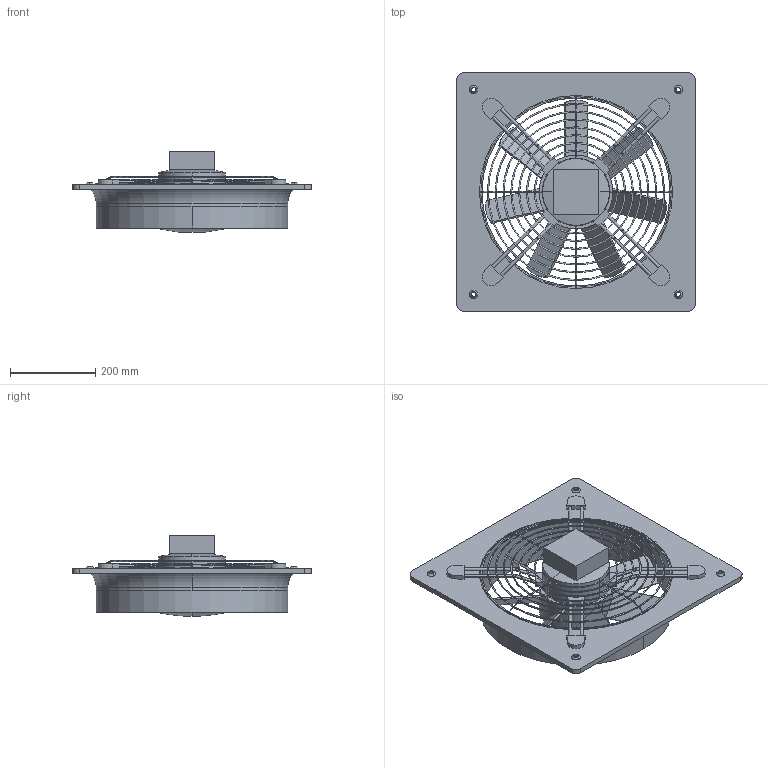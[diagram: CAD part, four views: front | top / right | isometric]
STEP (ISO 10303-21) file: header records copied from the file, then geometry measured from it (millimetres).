
FILE_DESCRIPTION(('STEP AP214'),'1');
FILE_NAME('fan_5603557900.stp','2017-07-24T07:55:14',('TraceParts'),('TraceParts S.A.'),'Spatial InterOp 3D',' ',' ');
FILE_SCHEMA(('automotive_design'));
Length unit declared in the file: millimetre
Products named in the file (1): fan_5603557900
Bounding box: 560 x 560 x 188.81 mm (x, y, z)
Volume: 6695651.9 mm3; surface area: 999259.7 mm2
Topology: 1 solids, 1 shells, 312 faces, 940 edges, 578 vertices
Faces by surface type: cylinder 129, plane 87, torus 68, cone 16, sphere 12
Entity records: 20491 total; most frequent: CARTESIAN_POINT 9795, ORIENTED_EDGE 1864, DIRECTION 1553, EDGE_CURVE 932, AXIS2_PLACEMENT_3D 632, VERTEX_POINT 578, EDGE_LOOP 388, B_SPLINE_CURVE_WITH_KNOTS 324
